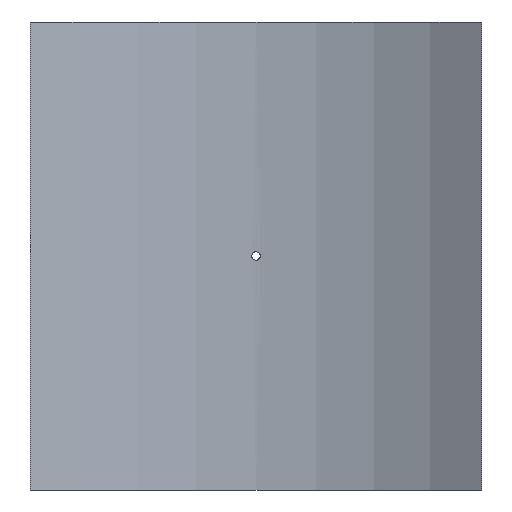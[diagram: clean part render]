
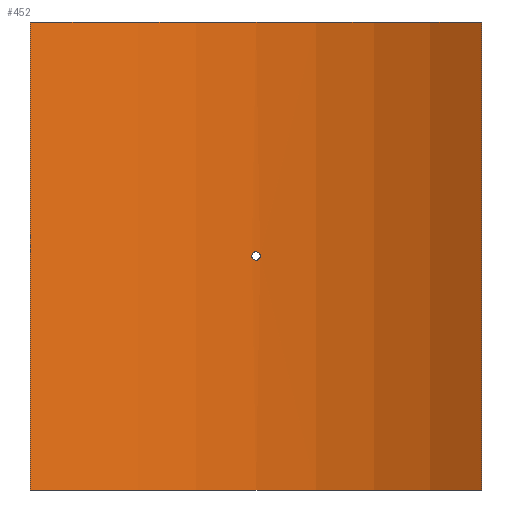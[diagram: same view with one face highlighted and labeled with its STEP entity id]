
A CAD part, front view. The second image highlights one B-rep face of the part: STEP entity #452.
In plain terms, the highlighted cylindrical face has radius 450 mm (diameter 900 mm), a partial arc.
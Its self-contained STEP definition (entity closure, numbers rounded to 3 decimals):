
#19=B_SPLINE_CURVE_WITH_KNOTS('',3,(#788,#789,#790,#791,#792,#793,#794,
#795,#796,#797,#798,#799,#800,#801,#802,#803,#804,#805,#806,#807,#808,#809,
#810,#811,#812,#813,#814,#815,#816,#817,#818,#819,#820,#821),
 .UNSPECIFIED.,.T.,.F.,(4,2,2,2,2,2,2,2,2,2,2,2,2,2,2,2,4),(0.,0.181,
0.362,0.542,0.723,0.904,
1.085,1.266,1.446,1.627,1.808,
1.989,2.17,2.351,2.531,2.712,
2.893),.UNSPECIFIED.);
#43=LINE('',#1065,#62);
#44=LINE('',#1068,#63);
#62=VECTOR('',#661,10.);
#63=VECTOR('',#664,10.);
#76=CYLINDRICAL_SURFACE('',#530,450.);
#88=FACE_BOUND('',#167,.T.);
#127=FACE_OUTER_BOUND('',#166,.T.);
#166=EDGE_LOOP('',(#405,#406,#407,#408));
#167=EDGE_LOOP('',(#409));
#201=CIRCLE('',#529,450.);
#202=CIRCLE('',#531,450.);
#219=VERTEX_POINT('',#786);
#242=VERTEX_POINT('',#1058);
#243=VERTEX_POINT('',#1060);
#244=VERTEX_POINT('',#1064);
#245=VERTEX_POINT('',#1066);
#267=EDGE_CURVE('',#219,#219,#19,.T.);
#299=EDGE_CURVE('',#242,#243,#201,.T.);
#301=EDGE_CURVE('',#244,#242,#43,.T.);
#302=EDGE_CURVE('',#245,#244,#202,.T.);
#303=EDGE_CURVE('',#245,#243,#44,.T.);
#405=ORIENTED_EDGE('',*,*,#301,.F.);
#406=ORIENTED_EDGE('',*,*,#302,.F.);
#407=ORIENTED_EDGE('',*,*,#303,.T.);
#408=ORIENTED_EDGE('',*,*,#299,.F.);
#409=ORIENTED_EDGE('',*,*,#267,.T.);
#452=ADVANCED_FACE('',(#127,#88),#76,.F.);
#529=AXIS2_PLACEMENT_3D('',#1061,#656,#657);
#530=AXIS2_PLACEMENT_3D('',#1063,#659,#660);
#531=AXIS2_PLACEMENT_3D('',#1067,#662,#663);
#656=DIRECTION('center_axis',(0.,0.,1.));
#657=DIRECTION('ref_axis',(0.568,0.823,0.));
#659=DIRECTION('center_axis',(0.,0.,1.));
#660=DIRECTION('ref_axis',(0.568,0.823,0.));
#661=DIRECTION('',(0.,0.,-1.));
#662=DIRECTION('center_axis',(0.,0.,-1.));
#663=DIRECTION('ref_axis',(0.568,0.823,0.));
#664=DIRECTION('',(0.,0.,-1.));
#786=CARTESIAN_POINT('',(4.8,449.974,0.));
#788=CARTESIAN_POINT('Ctrl Pts',(4.8,449.974,0.));
#789=CARTESIAN_POINT('Ctrl Pts',(4.8,449.974,-0.603));
#790=CARTESIAN_POINT('Ctrl Pts',(4.68,449.976,-1.246));
#791=CARTESIAN_POINT('Ctrl Pts',(4.19,449.981,-2.428));
#792=CARTESIAN_POINT('Ctrl Pts',(3.82,449.984,-2.968));
#793=CARTESIAN_POINT('Ctrl Pts',(2.968,449.99,-3.82));
#794=CARTESIAN_POINT('Ctrl Pts',(2.428,449.994,-4.19));
#795=CARTESIAN_POINT('Ctrl Pts',(1.246,449.999,-4.68));
#796=CARTESIAN_POINT('Ctrl Pts',(0.603,450.,-4.8));
#797=CARTESIAN_POINT('Ctrl Pts',(-0.603,450.,-4.8));
#798=CARTESIAN_POINT('Ctrl Pts',(-1.246,449.999,-4.68));
#799=CARTESIAN_POINT('Ctrl Pts',(-2.428,449.994,-4.19));
#800=CARTESIAN_POINT('Ctrl Pts',(-2.968,449.99,-3.82));
#801=CARTESIAN_POINT('Ctrl Pts',(-3.82,449.984,-2.968));
#802=CARTESIAN_POINT('Ctrl Pts',(-4.19,449.981,-2.428));
#803=CARTESIAN_POINT('Ctrl Pts',(-4.68,449.976,-1.246));
#804=CARTESIAN_POINT('Ctrl Pts',(-4.8,449.974,-0.603));
#805=CARTESIAN_POINT('Ctrl Pts',(-4.8,449.974,0.603));
#806=CARTESIAN_POINT('Ctrl Pts',(-4.68,449.976,1.246));
#807=CARTESIAN_POINT('Ctrl Pts',(-4.19,449.981,2.428));
#808=CARTESIAN_POINT('Ctrl Pts',(-3.82,449.984,2.968));
#809=CARTESIAN_POINT('Ctrl Pts',(-2.968,449.99,3.82));
#810=CARTESIAN_POINT('Ctrl Pts',(-2.428,449.994,4.19));
#811=CARTESIAN_POINT('Ctrl Pts',(-1.246,449.999,4.68));
#812=CARTESIAN_POINT('Ctrl Pts',(-0.603,450.,4.8));
#813=CARTESIAN_POINT('Ctrl Pts',(0.603,450.,4.8));
#814=CARTESIAN_POINT('Ctrl Pts',(1.246,449.999,4.68));
#815=CARTESIAN_POINT('Ctrl Pts',(2.428,449.994,4.19));
#816=CARTESIAN_POINT('Ctrl Pts',(2.968,449.99,3.82));
#817=CARTESIAN_POINT('Ctrl Pts',(3.82,449.984,2.968));
#818=CARTESIAN_POINT('Ctrl Pts',(4.19,449.981,2.428));
#819=CARTESIAN_POINT('Ctrl Pts',(4.68,449.976,1.246));
#820=CARTESIAN_POINT('Ctrl Pts',(4.8,449.974,0.603));
#821=CARTESIAN_POINT('Ctrl Pts',(4.8,449.974,0.));
#1058=CARTESIAN_POINT('',(255.5,370.432,-265.));
#1060=CARTESIAN_POINT('',(-255.5,370.432,-265.));
#1061=CARTESIAN_POINT('Origin',(0.,0.,
-265.));
#1063=CARTESIAN_POINT('Origin',(0.,0.,
0.));
#1064=CARTESIAN_POINT('',(255.5,370.432,265.));
#1065=CARTESIAN_POINT('',(255.5,370.432,0.));
#1066=CARTESIAN_POINT('',(-255.5,370.432,265.));
#1067=CARTESIAN_POINT('Origin',(0.,0.,
265.));
#1068=CARTESIAN_POINT('',(-255.5,370.432,0.));
